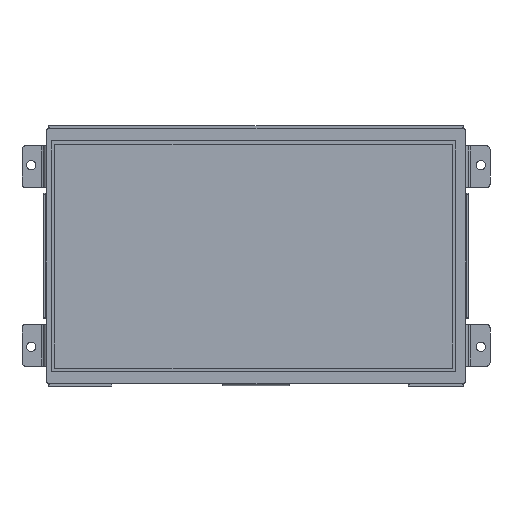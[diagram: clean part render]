
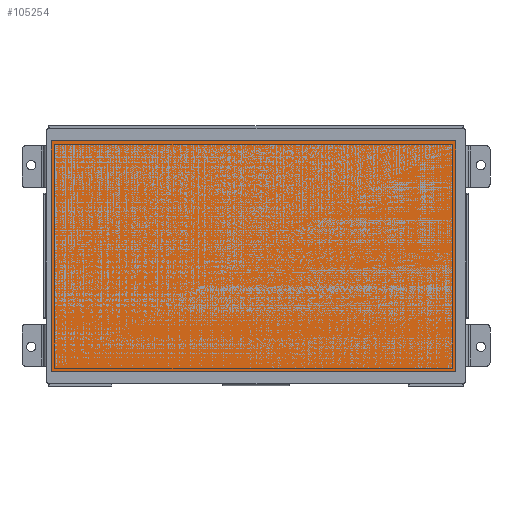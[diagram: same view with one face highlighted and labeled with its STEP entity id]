
A CAD part, top view. The second image highlights one B-rep face of the part: STEP entity #105254.
In plain terms, the highlighted planar face has unit normal (0, 0, 1).
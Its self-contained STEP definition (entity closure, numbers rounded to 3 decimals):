
#4125 = DIRECTION ( 'NONE',  ( 0., -1., 0. ) ) ;
#51909 = LINE ( 'NONE', #295583, #365742 ) ;
#62362 = ORIENTED_EDGE ( 'NONE', *, *, #186279, .T. ) ;
#82976 = EDGE_CURVE ( 'NONE', #97142, #126172, #51909, .T. ) ;
#84218 = DIRECTION ( 'NONE',  ( 0., 1., 0. ) ) ;
#89787 = DIRECTION ( 'NONE',  ( 1., 0., 0. ) ) ;
#97142 = VERTEX_POINT ( 'NONE', #154445 ) ;
#105254 = ADVANCED_FACE ( 'NONE', ( #408142 ), #437766, .T. ) ;
#113506 = DIRECTION ( 'NONE',  ( 1., 0., 0. ) ) ;
#126172 = VERTEX_POINT ( 'NONE', #166769 ) ;
#144040 = AXIS2_PLACEMENT_3D ( 'NONE', #192338, #479092, #113506 ) ;
#148912 = DIRECTION ( 'NONE',  ( -1., 0., 0. ) ) ;
#154445 = CARTESIAN_POINT ( 'NONE',  ( 7.367, 51.565, 209.013 ) ) ;
#156430 = VERTEX_POINT ( 'NONE', #255010 ) ;
#166769 = CARTESIAN_POINT ( 'NONE',  ( 233.787, 51.565, 209.013 ) ) ;
#181083 = ORIENTED_EDGE ( 'NONE', *, *, #82976, .T. ) ;
#186279 = EDGE_CURVE ( 'NONE', #156430, #97142, #303479, .T. ) ;
#192338 = CARTESIAN_POINT ( 'NONE',  ( 121.877, 116.165, 209.013 ) ) ;
#223740 = ORIENTED_EDGE ( 'NONE', *, *, #292106, .T. ) ;
#245682 = CARTESIAN_POINT ( 'NONE',  ( 7.367, 180.545, 209.013 ) ) ;
#247086 = CARTESIAN_POINT ( 'NONE',  ( 233.787, 51.565, 209.013 ) ) ;
#255010 = CARTESIAN_POINT ( 'NONE',  ( 7.367, 180.545, 209.013 ) ) ;
#292106 = EDGE_CURVE ( 'NONE', #481786, #156430, #389849, .T. ) ;
#295583 = CARTESIAN_POINT ( 'NONE',  ( 7.367, 51.565, 209.013 ) ) ;
#303479 = LINE ( 'NONE', #245682, #457516 ) ;
#319236 = CARTESIAN_POINT ( 'NONE',  ( 233.787, 180.545, 209.013 ) ) ;
#358502 = EDGE_CURVE ( 'NONE', #126172, #481786, #519855, .T. ) ;
#365742 = VECTOR ( 'NONE', #89787, 1000. ) ;
#389849 = LINE ( 'NONE', #394331, #505615 ) ;
#394331 = CARTESIAN_POINT ( 'NONE',  ( 7.367, 180.545, 209.013 ) ) ;
#408142 = FACE_OUTER_BOUND ( 'NONE', #488250, .T. ) ;
#427455 = ORIENTED_EDGE ( 'NONE', *, *, #358502, .T. ) ;
#436486 = VECTOR ( 'NONE', #84218, 1000. ) ;
#437766 = PLANE ( 'NONE',  #144040 ) ;
#457516 = VECTOR ( 'NONE', #4125, 1000. ) ;
#479092 = DIRECTION ( 'NONE',  ( 0., 0., 1. ) ) ;
#481786 = VERTEX_POINT ( 'NONE', #319236 ) ;
#488250 = EDGE_LOOP ( 'NONE', ( #62362, #181083, #427455, #223740 ) ) ;
#505615 = VECTOR ( 'NONE', #148912, 1000. ) ;
#519855 = LINE ( 'NONE', #247086, #436486 ) ;
